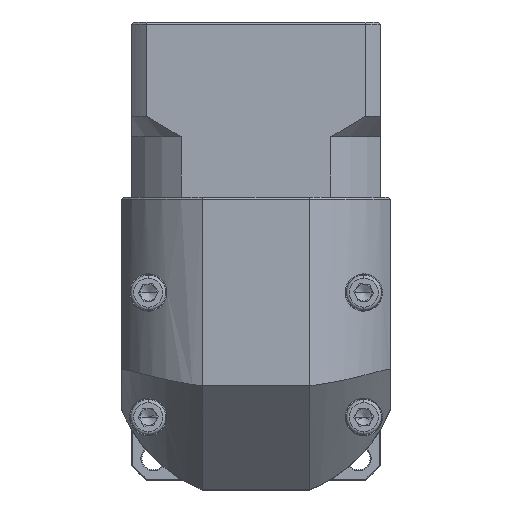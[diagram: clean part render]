
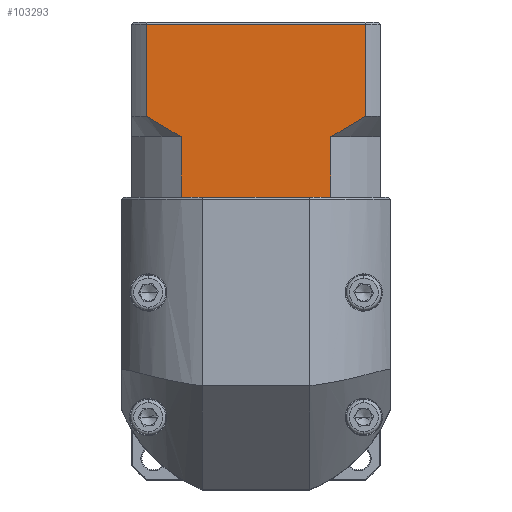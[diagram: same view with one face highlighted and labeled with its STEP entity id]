
A CAD part, top view. The second image highlights one B-rep face of the part: STEP entity #103293.
In plain terms, the highlighted planar face has unit normal (0, 0, 1).
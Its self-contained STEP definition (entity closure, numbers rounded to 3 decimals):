
#38 = CARTESIAN_POINT ( 'NONE',  ( -63.989, 41.044, 46.008 ) ) ;
#2726 = ORIENTED_EDGE ( 'NONE', *, *, #14133, .T. ) ;
#2899 = B_SPLINE_CURVE_WITH_KNOTS ( 'NONE', 3,
 ( #82476, #89902, #64219, #47247, #81729, #55363 ),
 .UNSPECIFIED., .F., .F.,
 ( 4, 2, 4 ),
 ( 0.052, 0.057, 0.062 ),
 .UNSPECIFIED. ) ;
#6101 = CARTESIAN_POINT ( 'NONE',  ( -20.495, 55.544, 46.008 ) ) ;
#8091 = VECTOR ( 'NONE', #26764, 1000. ) ;
#8449 = VERTEX_POINT ( 'NONE', #96480 ) ;
#11384 = CARTESIAN_POINT ( 'NONE',  ( -76.952, 41.044, 46.008 ) ) ;
#12651 = EDGE_CURVE ( 'NONE', #95649, #77401, #109409, .T. ) ;
#13342 = EDGE_CURVE ( 'NONE', #8449, #15360, #97941, .T. ) ;
#14133 = EDGE_CURVE ( 'NONE', #100071, #15360, #31343, .T. ) ;
#15360 = VERTEX_POINT ( 'NONE', #55704 ) ;
#15409 = DIRECTION ( 'NONE',  ( 1., 0., 0. ) ) ;
#16388 = CARTESIAN_POINT ( 'NONE',  ( -26.043, 57.095, 46.008 ) ) ;
#20552 = ORIENTED_EDGE ( 'NONE', *, *, #12651, .T. ) ;
#20975 = VECTOR ( 'NONE', #110946, 1000. ) ;
#26747 = VERTEX_POINT ( 'NONE', #100941 ) ;
#26764 = DIRECTION ( 'NONE',  ( 0., -1., 0. ) ) ;
#29331 = LINE ( 'NONE', #66574, #20975 ) ;
#29748 = CARTESIAN_POINT ( 'NONE',  ( -64.98, 55.544, 46.008 ) ) ;
#31343 = B_SPLINE_CURVE_WITH_KNOTS ( 'NONE', 3,
 ( #87982, #87225, #16388, #96158, #96944, #114789 ),
 .UNSPECIFIED., .F., .F.,
 ( 4, 2, 4 ),
 ( 0.1, 0.104, 0.109 ),
 .UNSPECIFIED. ) ;
#31410 = EDGE_CURVE ( 'NONE', #77401, #43082, #46024, .T. ) ;
#33606 = ORIENTED_EDGE ( 'NONE', *, *, #61744, .T. ) ;
#36514 = DIRECTION ( 'NONE',  ( -1., 0., 0. ) ) ;
#37417 = CARTESIAN_POINT ( 'NONE',  ( -73.41, 60.544, 46.008 ) ) ;
#37626 = VECTOR ( 'NONE', #98198, 1000. ) ;
#38041 = ORIENTED_EDGE ( 'NONE', *, *, #13342, .F. ) ;
#41678 = DIRECTION ( 'NONE',  ( 0., 1., 0. ) ) ;
#42883 = CARTESIAN_POINT ( 'NONE',  ( -73.41, 55.544, 46.008 ) ) ;
#43082 = VERTEX_POINT ( 'NONE', #45732 ) ;
#43140 = ORIENTED_EDGE ( 'NONE', *, *, #77243, .F. ) ;
#43198 = EDGE_CURVE ( 'NONE', #71953, #64371, #2899, .T. ) ;
#43238 = PLANE ( 'NONE',  #92544 ) ;
#44172 = VECTOR ( 'NONE', #15409, 1000. ) ;
#45732 = CARTESIAN_POINT ( 'NONE',  ( -28.924, 41.044, 46.008 ) ) ;
#46024 = LINE ( 'NONE', #11384, #55632 ) ;
#46147 = CARTESIAN_POINT ( 'NONE',  ( -64.98, 55.544, 46.008 ) ) ;
#47247 = CARTESIAN_POINT ( 'NONE',  ( -67.863, 57.096, 46.008 ) ) ;
#47350 = EDGE_CURVE ( 'NONE', #100071, #43082, #102382, .T. ) ;
#51485 = LINE ( 'NONE', #42883, #37626 ) ;
#52852 = EDGE_LOOP ( 'NONE', ( #38041, #33606, #43140, #63544, #91699, #71247, #20552, #78917, #77368, #2726 ) ) ;
#55363 = CARTESIAN_POINT ( 'NONE',  ( -64.98, 55.544, 46.008 ) ) ;
#55450 = CARTESIAN_POINT ( 'NONE',  ( -76.952, 82.744, 46.008 ) ) ;
#55632 = VECTOR ( 'NONE', #72110, 1000. ) ;
#55704 = CARTESIAN_POINT ( 'NONE',  ( -20.495, 60.544, 46.008 ) ) ;
#57749 = VERTEX_POINT ( 'NONE', #82569 ) ;
#59803 = CARTESIAN_POINT ( 'NONE',  ( -76.952, 41.044, 46.008 ) ) ;
#61744 = EDGE_CURVE ( 'NONE', #8449, #57749, #61861, .T. ) ;
#61861 = LINE ( 'NONE', #55450, #107826 ) ;
#63544 = ORIENTED_EDGE ( 'NONE', *, *, #43198, .T. ) ;
#64219 = CARTESIAN_POINT ( 'NONE',  ( -70.671, 58.771, 46.008 ) ) ;
#64371 = VERTEX_POINT ( 'NONE', #29748 ) ;
#66574 = CARTESIAN_POINT ( 'NONE',  ( -76.952, 41.044, 46.008 ) ) ;
#66801 = DIRECTION ( 'NONE',  ( 0., -1., 0. ) ) ;
#69876 = DIRECTION ( 'NONE',  ( 0., 0., -1. ) ) ;
#70833 = CARTESIAN_POINT ( 'NONE',  ( -28.924, 55.544, 46.008 ) ) ;
#71247 = ORIENTED_EDGE ( 'NONE', *, *, #109840, .T. ) ;
#71953 = VERTEX_POINT ( 'NONE', #37417 ) ;
#72110 = DIRECTION ( 'NONE',  ( 1., 0., 0. ) ) ;
#72429 = DIRECTION ( 'NONE',  ( 0., 1., 0. ) ) ;
#77243 = EDGE_CURVE ( 'NONE', #71953, #57749, #51485, .T. ) ;
#77368 = ORIENTED_EDGE ( 'NONE', *, *, #47350, .F. ) ;
#77401 = VERTEX_POINT ( 'NONE', #107120 ) ;
#78917 = ORIENTED_EDGE ( 'NONE', *, *, #31410, .T. ) ;
#81729 = CARTESIAN_POINT ( 'NONE',  ( -66.432, 56.292, 46.008 ) ) ;
#82476 = CARTESIAN_POINT ( 'NONE',  ( -73.41, 60.544, 46.008 ) ) ;
#82569 = CARTESIAN_POINT ( 'NONE',  ( -73.41, 82.744, 46.008 ) ) ;
#83363 = VECTOR ( 'NONE', #72429, 1000. ) ;
#83826 = EDGE_CURVE ( 'NONE', #26747, #64371, #107081, .T. ) ;
#87225 = CARTESIAN_POINT ( 'NONE',  ( -27.468, 56.294, 46.008 ) ) ;
#87982 = CARTESIAN_POINT ( 'NONE',  ( -28.924, 55.544, 46.008 ) ) ;
#89902 = CARTESIAN_POINT ( 'NONE',  ( -72.05, 59.645, 46.008 ) ) ;
#91699 = ORIENTED_EDGE ( 'NONE', *, *, #83826, .F. ) ;
#92544 = AXIS2_PLACEMENT_3D ( 'NONE', #105331, #69876, #41678 ) ;
#95649 = VERTEX_POINT ( 'NONE', #38 ) ;
#96158 = CARTESIAN_POINT ( 'NONE',  ( -23.237, 58.769, 46.008 ) ) ;
#96480 = CARTESIAN_POINT ( 'NONE',  ( -20.495, 82.744, 46.008 ) ) ;
#96944 = CARTESIAN_POINT ( 'NONE',  ( -21.857, 59.643, 46.008 ) ) ;
#97941 = LINE ( 'NONE', #6101, #103494 ) ;
#98198 = DIRECTION ( 'NONE',  ( 0., 1., 0. ) ) ;
#100071 = VERTEX_POINT ( 'NONE', #70833 ) ;
#100941 = CARTESIAN_POINT ( 'NONE',  ( -64.98, 41.044, 46.008 ) ) ;
#102382 = LINE ( 'NONE', #114811, #8091 ) ;
#103293 = ADVANCED_FACE ( 'NONE', ( #105110 ), #43238, .F. ) ;
#103494 = VECTOR ( 'NONE', #66801, 1000. ) ;
#105110 = FACE_OUTER_BOUND ( 'NONE', #52852, .T. ) ;
#105331 = CARTESIAN_POINT ( 'NONE',  ( -76.952, 83.244, 46.008 ) ) ;
#107081 = LINE ( 'NONE', #46147, #83363 ) ;
#107120 = CARTESIAN_POINT ( 'NONE',  ( -29.915, 41.044, 46.008 ) ) ;
#107826 = VECTOR ( 'NONE', #36514, 1000. ) ;
#109409 = LINE ( 'NONE', #59803, #44172 ) ;
#109840 = EDGE_CURVE ( 'NONE', #26747, #95649, #29331, .T. ) ;
#110946 = DIRECTION ( 'NONE',  ( 1., 0., 0. ) ) ;
#114789 = CARTESIAN_POINT ( 'NONE',  ( -20.495, 60.544, 46.008 ) ) ;
#114811 = CARTESIAN_POINT ( 'NONE',  ( -28.924, 55.544, 46.008 ) ) ;
